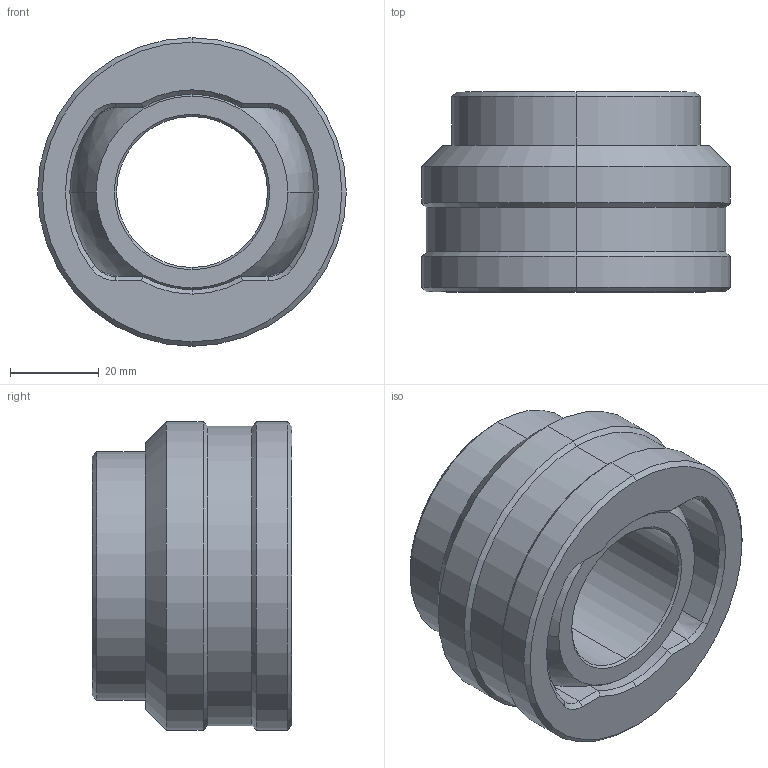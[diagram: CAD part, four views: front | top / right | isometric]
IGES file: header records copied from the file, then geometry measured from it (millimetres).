
Start section: 3D InterOp IGES (Version 20 0 1), Spatial Corp. Copyright (c) 1999-2007.
Global section: file name: 10.11.03.igs; native system: Spatial Corp.; preprocessor: 3D InterOp GENERIC/IGES 3.0; author: Noname; organization: Noname; date: 20111110.163852; units: metre
Bounding box: 69.5 x 45 x 69.5 mm (x, y, z)
Surface area: 30489.2 mm2 (no closed solid volume)
Topology: 0 solids, 0 shells, 67 faces, 653 edges, 1002 vertices
Faces by surface type: revolution 54, extrusion 13
